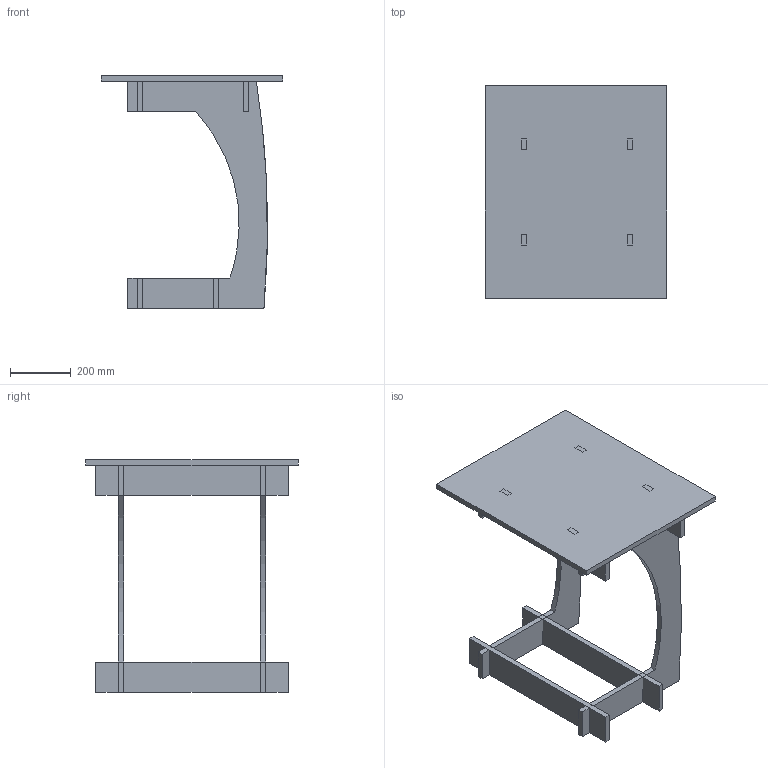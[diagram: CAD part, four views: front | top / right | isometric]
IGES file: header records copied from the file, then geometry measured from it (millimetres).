
Global section: file name: table 3 v11; native system: unknown; preprocessor: unknown; author: manumohan20; organization: unknown; date: 20190312.164633; units: millimetre
Bounding box: 600 x 700 x 768 mm (x, y, z)
Volume: 17501442 mm3; surface area: 2240187.5 mm2
Topology: 7 solids, 7 shells, 138 faces, 372 edges, 248 vertices
Faces by surface type: bspline 138
